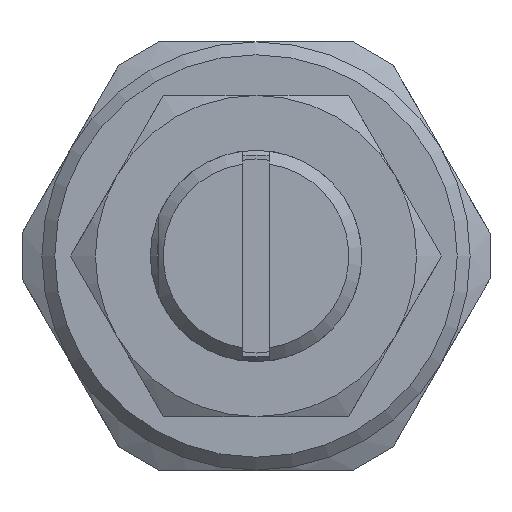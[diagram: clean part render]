
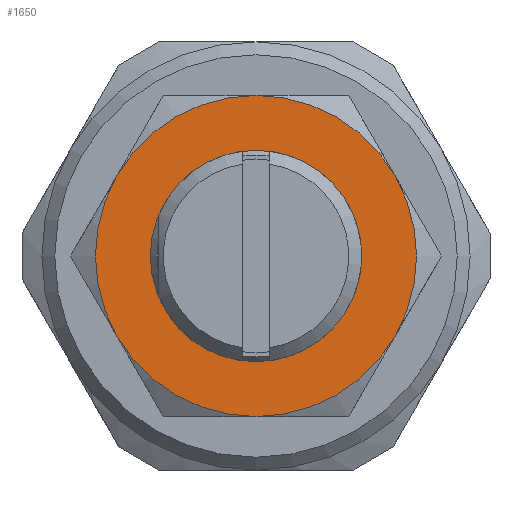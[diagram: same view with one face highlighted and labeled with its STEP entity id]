
A CAD part, left-side view. The second image highlights one B-rep face of the part: STEP entity #1650.
In plain terms, the highlighted planar face has unit normal (-1, 0, 0).
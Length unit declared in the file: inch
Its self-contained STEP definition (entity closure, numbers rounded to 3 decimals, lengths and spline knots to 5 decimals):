
#253=PLANE('',#1824);
#325=FACE_BOUND('',#560,.T.);
#388=FACE_OUTER_BOUND('',#559,.T.);
#559=EDGE_LOOP('',(#1234,#1235,#1236,#1237,#1238,#1239));
#560=EDGE_LOOP('',(#1240));
#703=CIRCLE('',#1825,0.375);
#704=CIRCLE('',#1826,0.375);
#705=CIRCLE('',#1827,0.375);
#706=CIRCLE('',#1828,0.375);
#707=CIRCLE('',#1829,0.375);
#708=CIRCLE('',#1830,0.375);
#709=CIRCLE('',#1831,0.24371);
#807=VERTEX_POINT('',#2980);
#808=VERTEX_POINT('',#2981);
#809=VERTEX_POINT('',#2983);
#810=VERTEX_POINT('',#2985);
#811=VERTEX_POINT('',#2987);
#812=VERTEX_POINT('',#2989);
#813=VERTEX_POINT('',#2992);
#965=EDGE_CURVE('',#807,#808,#703,.T.);
#966=EDGE_CURVE('',#808,#809,#704,.T.);
#967=EDGE_CURVE('',#809,#810,#705,.T.);
#968=EDGE_CURVE('',#810,#811,#706,.T.);
#969=EDGE_CURVE('',#811,#812,#707,.T.);
#970=EDGE_CURVE('',#812,#807,#708,.T.);
#971=EDGE_CURVE('',#813,#813,#709,.T.);
#1234=ORIENTED_EDGE('',*,*,#965,.T.);
#1235=ORIENTED_EDGE('',*,*,#966,.T.);
#1236=ORIENTED_EDGE('',*,*,#967,.T.);
#1237=ORIENTED_EDGE('',*,*,#968,.T.);
#1238=ORIENTED_EDGE('',*,*,#969,.T.);
#1239=ORIENTED_EDGE('',*,*,#970,.T.);
#1240=ORIENTED_EDGE('',*,*,#971,.F.);
#1650=ADVANCED_FACE('',(#388,#325),#253,.F.);
#1824=AXIS2_PLACEMENT_3D('',#2979,#2133,#2134);
#1825=AXIS2_PLACEMENT_3D('',#2982,#2135,#2136);
#1826=AXIS2_PLACEMENT_3D('',#2984,#2137,#2138);
#1827=AXIS2_PLACEMENT_3D('',#2986,#2139,#2140);
#1828=AXIS2_PLACEMENT_3D('',#2988,#2141,#2142);
#1829=AXIS2_PLACEMENT_3D('',#2990,#2143,#2144);
#1830=AXIS2_PLACEMENT_3D('',#2991,#2145,#2146);
#1831=AXIS2_PLACEMENT_3D('',#2993,#2147,#2148);
#2133=DIRECTION('center_axis',(1.,0.,0.));
#2134=DIRECTION('ref_axis',(0.,0.,-1.));
#2135=DIRECTION('center_axis',(-1.,0.,0.));
#2136=DIRECTION('ref_axis',(0.,1.,0.));
#2137=DIRECTION('center_axis',(-1.,0.,0.));
#2138=DIRECTION('ref_axis',(0.,1.,0.));
#2139=DIRECTION('center_axis',(-1.,0.,0.));
#2140=DIRECTION('ref_axis',(0.,1.,0.));
#2141=DIRECTION('center_axis',(-1.,0.,0.));
#2142=DIRECTION('ref_axis',(0.,1.,0.));
#2143=DIRECTION('center_axis',(-1.,0.,0.));
#2144=DIRECTION('ref_axis',(0.,1.,0.));
#2145=DIRECTION('center_axis',(-1.,0.,0.));
#2146=DIRECTION('ref_axis',(0.,1.,0.));
#2147=DIRECTION('center_axis',(-1.,0.,0.));
#2148=DIRECTION('ref_axis',(0.,1.,0.));
#2979=CARTESIAN_POINT('Origin',(0.10377,0.,2.58777));
#2980=CARTESIAN_POINT('',(0.10377,0.,2.96277));
#2981=CARTESIAN_POINT('',(0.10377,0.32476,2.77527));
#2982=CARTESIAN_POINT('Origin',(0.10377,0.,2.58777));
#2983=CARTESIAN_POINT('',(0.10377,0.32476,2.40027));
#2984=CARTESIAN_POINT('Origin',(0.10377,0.,2.58777));
#2985=CARTESIAN_POINT('',(0.10377,0.,2.21277));
#2986=CARTESIAN_POINT('Origin',(0.10377,0.,2.58777));
#2987=CARTESIAN_POINT('',(0.10377,-0.32476,2.40027));
#2988=CARTESIAN_POINT('Origin',(0.10377,0.,2.58777));
#2989=CARTESIAN_POINT('',(0.10377,-0.32476,2.77527));
#2990=CARTESIAN_POINT('Origin',(0.10377,0.,2.58777));
#2991=CARTESIAN_POINT('Origin',(0.10377,0.,2.58777));
#2992=CARTESIAN_POINT('',(0.10377,-0.24371,2.58777));
#2993=CARTESIAN_POINT('Origin',(0.10377,0.,2.58777));
